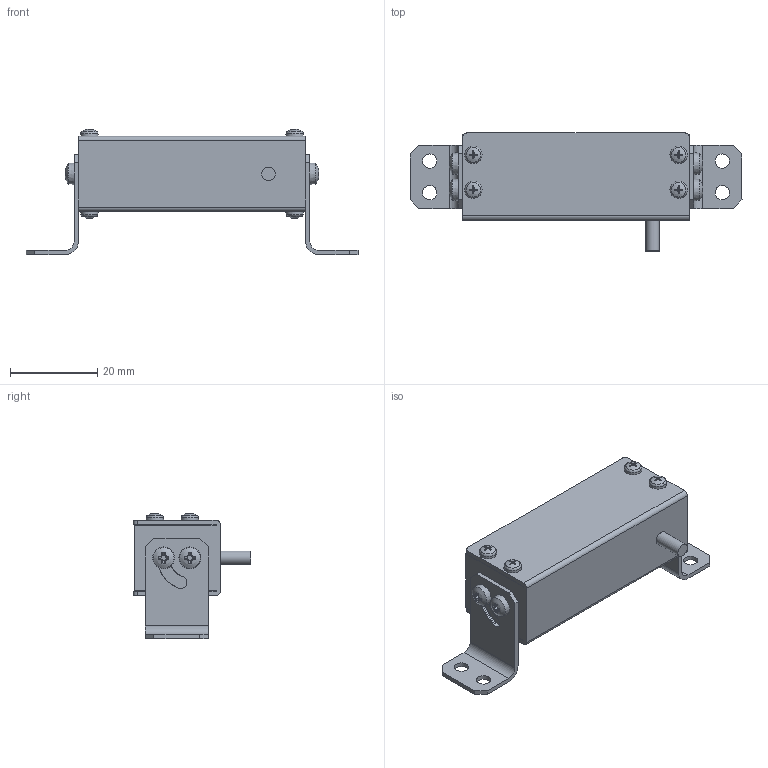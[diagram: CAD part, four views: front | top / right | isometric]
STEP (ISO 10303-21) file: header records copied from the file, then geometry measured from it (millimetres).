
FILE_DESCRIPTION(/* description */ (''),/* implementation_level */ '2;1');
FILE_NAME(/* name */ 'C:\#Vault-WorkDir\Konstruktions-Dokumente\Projekte\Zubehör allgemein\Falcon Beleuchtungen\153-13702_LB 44 XD-24-KFL5.stp',/* time_stamp */ '2022-03-22T12:28:24+01:00',/* author */ ('SensoPart'),/* organization */ ('SensoPart'),/* preprocessor_version */ 'ST-DEVELOPER v18.1',/* originating_system */ 'Autodesk Inventor 2022',/* authorisation */ '');
FILE_SCHEMA (('AUTOMOTIVE_DESIGN { 1 0 10303 214 3 1 1 }'));
Length unit declared in the file: millimetre
Products named in the file (1): GH-ENG-0038222
Bounding box: 76 x 27 x 28.69 mm (x, y, z)
Volume: 18590 mm3; surface area: 9424.5 mm2
Topology: 7 solids, 7 shells, 560 faces, 1561 edges, 1039 vertices
Faces by surface type: plane 213, cone 160, cylinder 123, torus 52, sphere 12
Full cylindrical faces by diameter (mm): 2 x8, 2.275 x4, 2.5 x8, 2.8 x2, 3.1 x1, 3.3 x4, 3.8 x2
Entity records: 19475 total; most frequent: CARTESIAN_POINT 5057, ORIENTED_EDGE 3102, DIRECTION 3033, EDGE_CURVE 1551, AXIS2_PLACEMENT_3D 1223, VERTEX_POINT 1038, CIRCLE 646, EDGE_LOOP 625
